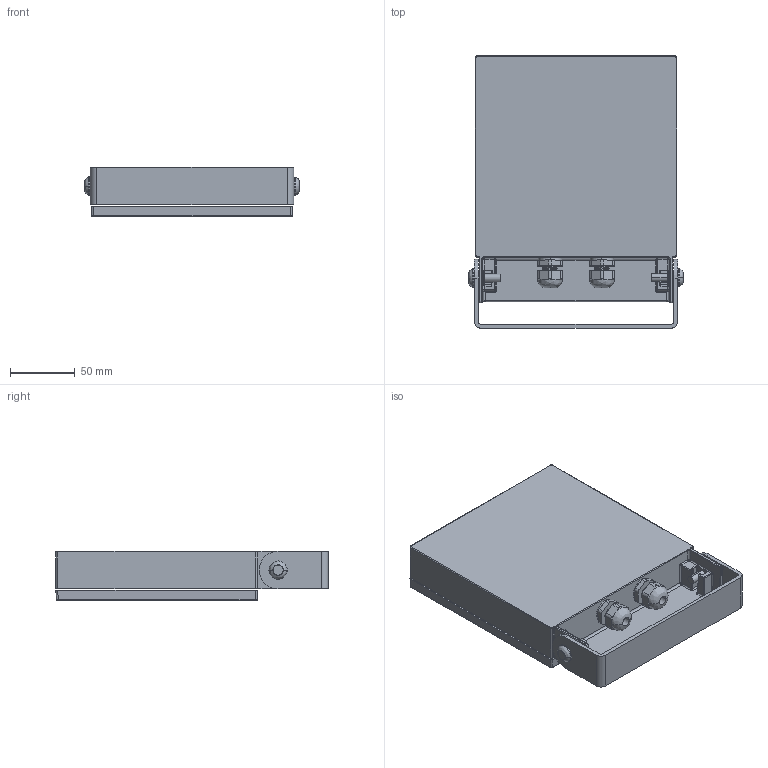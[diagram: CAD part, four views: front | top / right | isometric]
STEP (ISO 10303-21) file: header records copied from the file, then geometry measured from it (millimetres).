
FILE_DESCRIPTION((''),'2;1');
FILE_NAME('DELTA_0_AR_SW0001','2025-07-31T08:28:04',('Piccioli'),(''),'CREO PARAMETRIC BY PTC INC, 2025010','CREO PARAMETRIC BY PTC INC, 2025010','');
FILE_SCHEMA(('CONFIG_CONTROL_DESIGN'));
Length unit declared in the file: millimetre
Products named in the file (1): DELTA_0_AR_SW0001
Bounding box: 165.3 x 209.5 x 38.1 mm (x, y, z)
Surface area: 153823.5 mm2 (no closed solid volume)
Topology: 0 solids, 18 shells, 306 faces, 888 edges, 575 vertices
Faces by surface type: cylinder 144, plane 90, bspline 40, torus 32
Entity records: 16841 total; most frequent: CARTESIAN_POINT 9218, DIRECTION 1541, ORIENTED_EDGE 1526, EDGE_CURVE 888, AXIS2_PLACEMENT_3D 577, VERTEX_POINT 575, VECTOR 387, LINE 387
